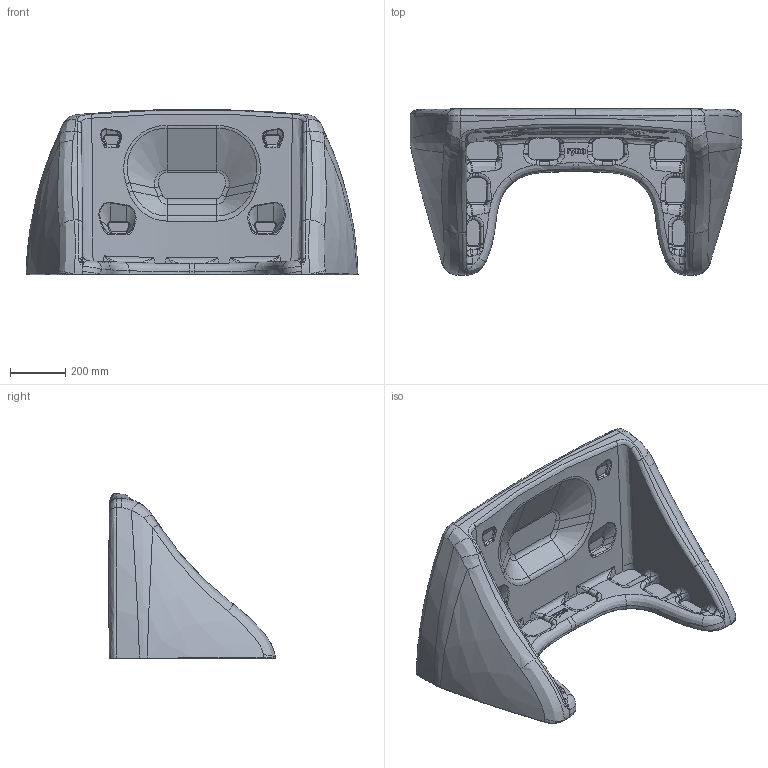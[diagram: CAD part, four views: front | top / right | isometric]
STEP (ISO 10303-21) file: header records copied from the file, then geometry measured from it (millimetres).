
FILE_DESCRIPTION(/* description */ (''),/* implementation_level */ '2;1');
FILE_NAME(/* name */ 'Ryno Wall Desk - STEP (Simplified).stp',/* time_stamp */ '2024-11-13T12:38:42Z',/* author */ ('Brian.Thangei'),/* organization */ (''),/* preprocessor_version */ 'ST-DEVELOPER v20',/* originating_system */ 'Autodesk Inventor 2024',/* authorisation */ '');
FILE_SCHEMA (('AUTOMOTIVE_DESIGN { 1 0 10303 214 3 1 1 }'));
Length unit declared in the file: millimetre
Products named in the file (1): Ryno Wall Desk (Simplified)
Bounding box: 1199.9 x 601.33 x 597 mm (x, y, z)
Volume: 98756130.9 mm3; surface area: 2600663.4 mm2
Topology: 1 solids, 1 shells, 489 faces, 1191 edges, 682 vertices
Faces by surface type: bspline 314, cylinder 78, plane 74, cone 20, torus 3
Entity records: 85835 total; most frequent: CARTESIAN_POINT 76492, ORIENTED_EDGE 2318, EDGE_CURVE 1159, DIRECTION 1056, VERTEX_POINT 682, B_SPLINE_CURVE_WITH_KNOTS 671, EDGE_LOOP 499, STYLED_ITEM 490
